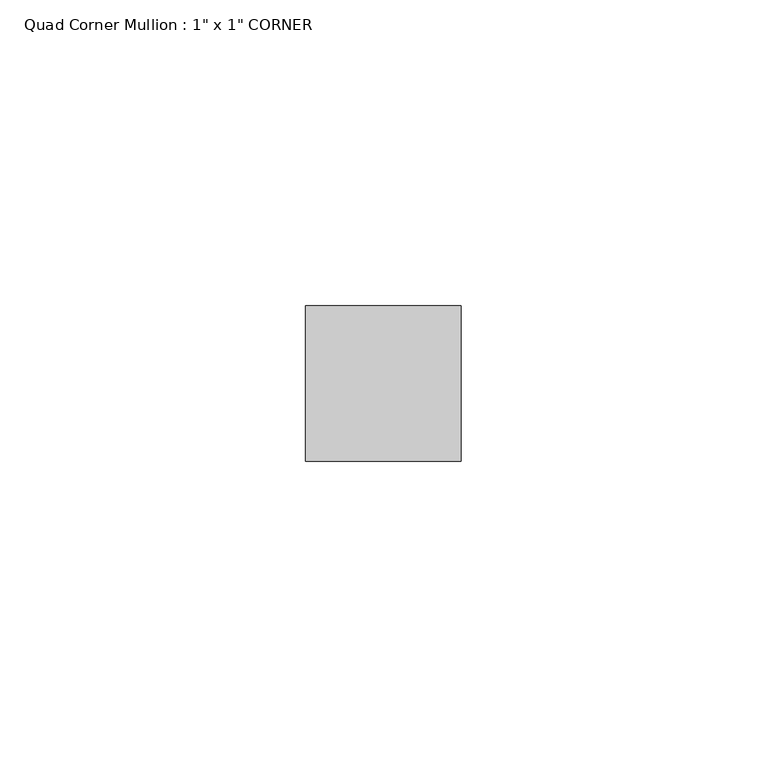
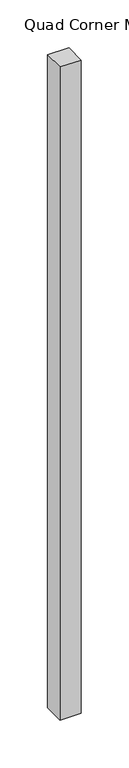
"""IFC4 building model written with IfcOpenShell, lengths in millimetres: member geometry."""

from ifc_helpers import new_model, si_unit, frame, origin, place, context, project, spatial, polyline, outline, extrude, source, transform, mapped, element, save


def member_8bf7a356(model_context):
    return source(origin(), model_context, "Body", "SweptSolid", [
        extrude(outline(polyline([(0.0, 25.4), (0.0, 0.0), (-25.4, 0.0), (-25.4, 25.4), (0.0, 25.4)])), frame((0.0, 0.0, -831.85), z_axis=(0.0, 0.0, 1.0), x_axis=(1.0, 0.0, 0.0)), (0.0, 0.0, 1.0), 831.85),
    ])


if __name__ == "__main__":
    model = new_model("IFC4")
    model_context = context("Model", 3, world=origin())
    ifc_project = project(units=[si_unit("LENGTHUNIT", "METRE", prefix="MILLI")], contexts=[model_context])
    site = spatial("IfcSite", under=ifc_project)
    building = spatial("IfcBuilding", under=site)
    placement = place(None, origin())
    member_shape = member_8bf7a356(model_context)
    element("IfcMember", 1, ObjectType="Quad Corner Mullion : 1\" x 1\" CORNER", at=placement, inside=building, context=model_context, shape_type="MappedRepresentation", body=[
        mapped(member_shape, transform((0.0, 0.0, 0.0), x_axis=(1.0, 0.0, 0.0), y_axis=(0.0, 1.0, 0.0), z_axis=(0.0, 0.0, 1.0))),
    ])
    save(model, "model.ifc")
